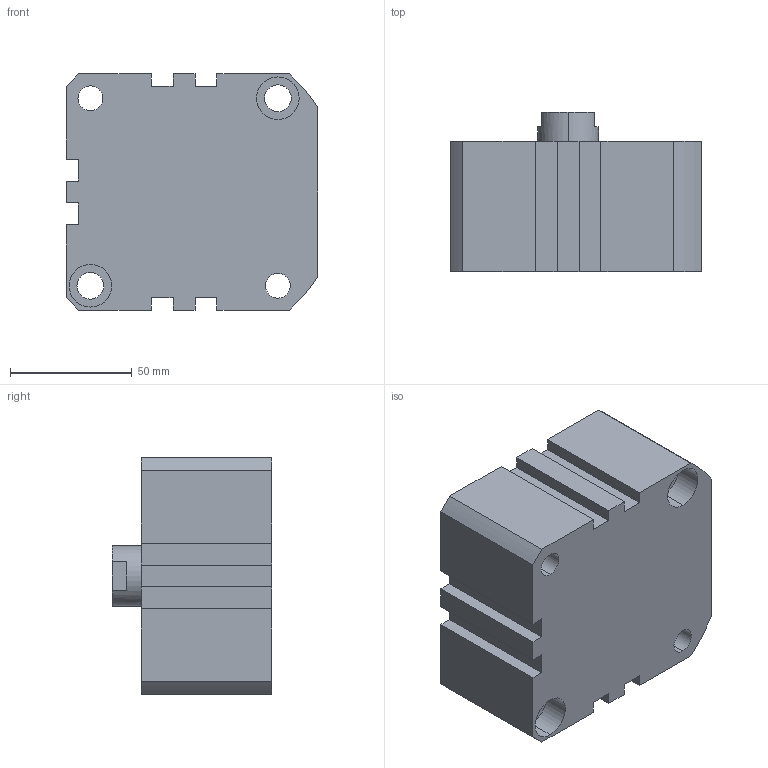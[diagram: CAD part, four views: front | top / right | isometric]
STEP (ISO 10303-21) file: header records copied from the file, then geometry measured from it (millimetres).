
FILE_DESCRIPTION (( 'STEP AP203' ), '1' );
FILE_NAME ('XC#2-80-10.STEP', '2016-05-23T08:16:44', ( '' ), ( '' ), 'SwSTEP 2.0', 'SolidWorks 2014', '' );
FILE_SCHEMA (( 'CONFIG_CONTROL_DESIGN' ));
Length unit declared in the file: millimetre
Products named in the file (1): XC#2-80-10
Bounding box: 103.5 x 65.5 x 97 mm (x, y, z)
Volume: 476794.7 mm3; surface area: 54645.4 mm2
Topology: 1 solids, 1 shells, 99 faces, 251 edges, 162 vertices
Faces by surface type: plane 46, cylinder 43, cone 10
Entity records: 3059 total; most frequent: DIRECTION 544, CARTESIAN_POINT 507, ORIENTED_EDGE 490, EDGE_CURVE 245, AXIS2_PLACEMENT_3D 199, VERTEX_POINT 162, VECTOR 146, LINE 146
